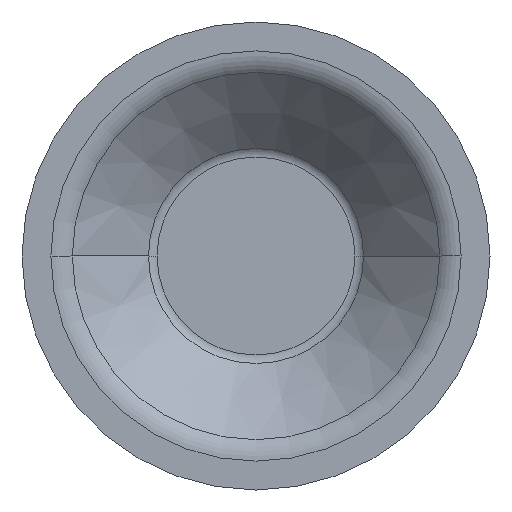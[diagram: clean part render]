
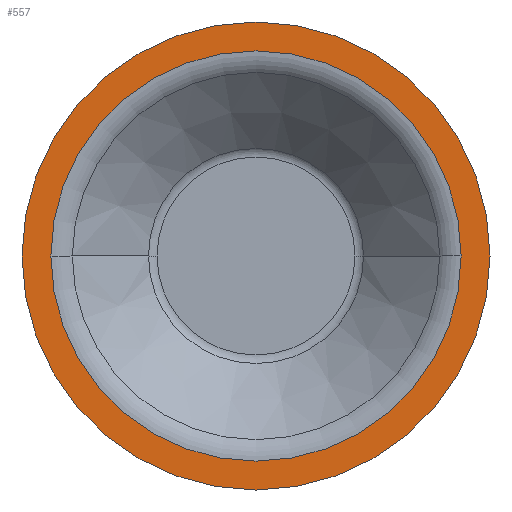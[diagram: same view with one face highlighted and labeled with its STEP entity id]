
A CAD part, front view. The second image highlights one B-rep face of the part: STEP entity #557.
In plain terms, the highlighted planar face has unit normal (0, -1, 0).
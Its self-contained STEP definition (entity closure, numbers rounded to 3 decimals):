
#14 = AXIS2_PLACEMENT_3D ( 'NONE', #997, #1513, #878 ) ;
#23 = CARTESIAN_POINT ( 'NONE',  ( -33.312, -17., 0. ) ) ;
#74 = FACE_OUTER_BOUND ( 'NONE', #734, .T. ) ;
#96 = CARTESIAN_POINT ( 'NONE',  ( -38., -17., 0. ) ) ;
#131 = EDGE_CURVE ( 'NONE', #939, #748, #463, .T. ) ;
#217 = CARTESIAN_POINT ( 'NONE',  ( 33.312, -17., 0. ) ) ;
#230 = DIRECTION ( 'NONE',  ( 1., 0., 0. ) ) ;
#237 = DIRECTION ( 'NONE',  ( 1., 0., 0. ) ) ;
#252 = DIRECTION ( 'NONE',  ( 0., -1., 0. ) ) ;
#284 = ORIENTED_EDGE ( 'NONE', *, *, #131, .F. ) ;
#294 = DIRECTION ( 'NONE',  ( 0., -1., 0. ) ) ;
#326 = EDGE_CURVE ( 'NONE', #748, #939, #1004, .T. ) ;
#458 = PLANE ( 'NONE',  #670 ) ;
#463 = CIRCLE ( 'NONE', #693, 33.312 ) ;
#557 = ADVANCED_FACE ( 'NONE', ( #1329, #74 ), #458, .T. ) ;
#635 = CARTESIAN_POINT ( 'NONE',  ( 0., -17., 0. ) ) ;
#639 = CIRCLE ( 'NONE', #1568, 38. ) ;
#649 = EDGE_CURVE ( 'NONE', #711, #1318, #639, .T. ) ;
#670 = AXIS2_PLACEMENT_3D ( 'NONE', #1579, #957, #230 ) ;
#682 = ORIENTED_EDGE ( 'NONE', *, *, #649, .T. ) ;
#693 = AXIS2_PLACEMENT_3D ( 'NONE', #1543, #294, #1424 ) ;
#711 = VERTEX_POINT ( 'NONE', #1373 ) ;
#734 = EDGE_LOOP ( 'NONE', ( #682, #1210 ) ) ;
#748 = VERTEX_POINT ( 'NONE', #217 ) ;
#805 = CIRCLE ( 'NONE', #1037, 38. ) ;
#822 = EDGE_LOOP ( 'NONE', ( #284, #841 ) ) ;
#841 = ORIENTED_EDGE ( 'NONE', *, *, #326, .F. ) ;
#878 = DIRECTION ( 'NONE',  ( -1., 0., 0. ) ) ;
#939 = VERTEX_POINT ( 'NONE', #23 ) ;
#945 = DIRECTION ( 'NONE',  ( 0., -1., 0. ) ) ;
#957 = DIRECTION ( 'NONE',  ( 0., -1., 0. ) ) ;
#984 = DIRECTION ( 'NONE',  ( 1., 0., 0. ) ) ;
#997 = CARTESIAN_POINT ( 'NONE',  ( 0., -17., 0. ) ) ;
#1004 = CIRCLE ( 'NONE', #14, 33.312 ) ;
#1037 = AXIS2_PLACEMENT_3D ( 'NONE', #1584, #945, #984 ) ;
#1210 = ORIENTED_EDGE ( 'NONE', *, *, #1285, .T. ) ;
#1285 = EDGE_CURVE ( 'NONE', #1318, #711, #805, .T. ) ;
#1318 = VERTEX_POINT ( 'NONE', #96 ) ;
#1329 = FACE_BOUND ( 'NONE', #822, .T. ) ;
#1373 = CARTESIAN_POINT ( 'NONE',  ( 38., -17., 0. ) ) ;
#1424 = DIRECTION ( 'NONE',  ( -1., 0., 0. ) ) ;
#1513 = DIRECTION ( 'NONE',  ( 0., -1., 0. ) ) ;
#1543 = CARTESIAN_POINT ( 'NONE',  ( 0., -17., 0. ) ) ;
#1568 = AXIS2_PLACEMENT_3D ( 'NONE', #635, #252, #237 ) ;
#1579 = CARTESIAN_POINT ( 'NONE',  ( 38., -17., 0. ) ) ;
#1584 = CARTESIAN_POINT ( 'NONE',  ( 0., -17., 0. ) ) ;
